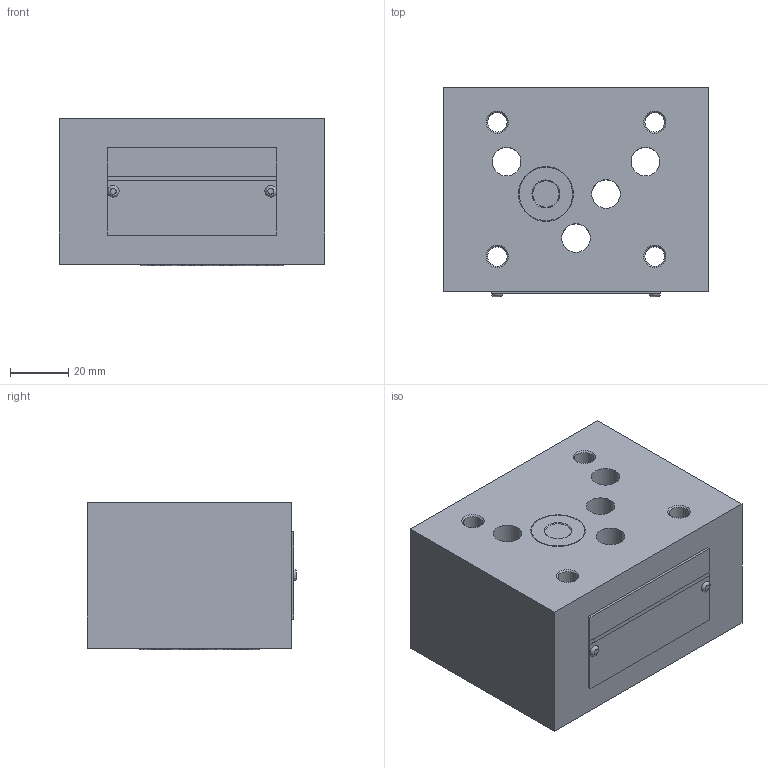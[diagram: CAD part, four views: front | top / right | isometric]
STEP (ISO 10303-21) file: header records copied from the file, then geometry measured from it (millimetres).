
FILE_DESCRIPTION(/* description */ (''),/* implementation_level */ '2;1');
FILE_NAME(/* name */ 'Z1S10B叠加式单向阀.prt.stp',/* time_stamp */ '2022-03-30T19:25:01+08:00',/* author */ (''),/* organization */ (''),/* preprocessor_version */ 'ST-DEVELOPER v16.7',/* originating_system */ 'SIEMENS PLM Software NX 12.0',/* authorisation */ '');
FILE_SCHEMA (('AUTOMOTIVE_DESIGN { 1 0 10303 214 3 1 1 1 }'));
Length unit declared in the file: millimetre
Products named in the file (1): Z1S10B叠加式单向阀
Bounding box: 91 x 71.8 x 50.5 mm (x, y, z)
Volume: 297361.2 mm3; surface area: 45573.4 mm2
Topology: 10 solids, 10 shells, 74 faces, 149 edges, 95 vertices
Faces by surface type: plane 32, cylinder 22, cone 11, torus 5, bspline 4
Full cylindrical faces by diameter (mm): 1.8 x4, 2 x2, 6.7 x4, 9.8 x5, 15.7 x5, 18.2 x1, 18.3 x1
Entity records: 1869 total; most frequent: CARTESIAN_POINT 370, DIRECTION 298, ORIENTED_EDGE 192, EDGE_LOOP 136, AXIS2_PLACEMENT_3D 131, FACE_BOUND 124, EDGE_CURVE 96, VERTEX_POINT 91
